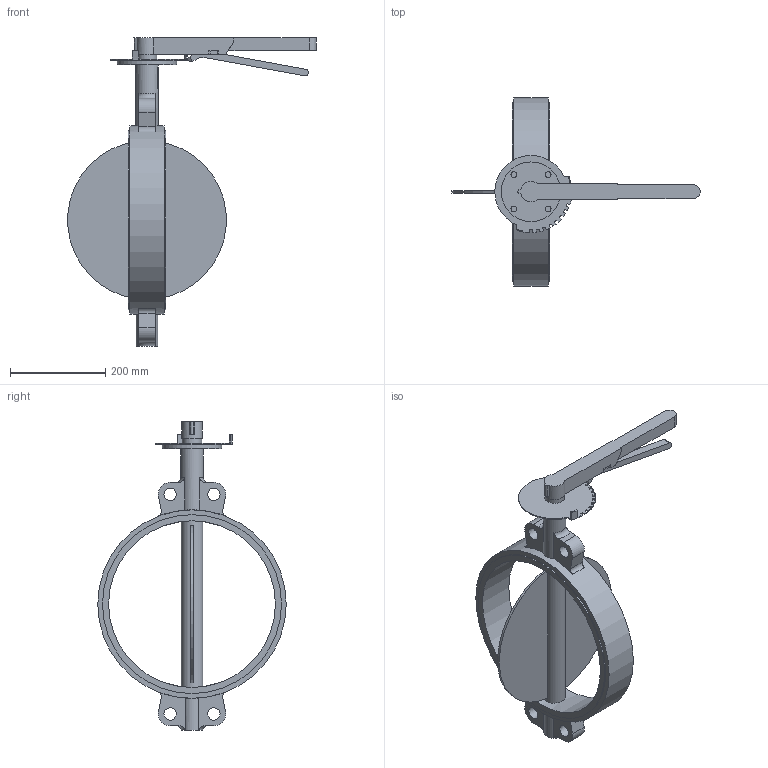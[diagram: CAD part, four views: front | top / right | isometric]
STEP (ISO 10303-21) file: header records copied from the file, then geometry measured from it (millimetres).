
FILE_DESCRIPTION(('STEP AP203'), '1');
FILE_NAME('Çàòâîð 017W.Y_DN350_PN16_ðóêîÿòü', '', ('UNSPECIFIED'), ('UNSPECIFIED'), 'ASCON STEP Converter 1.6', 'ASCON Math Kernel', '');
FILE_SCHEMA(('CONFIG_CONTROL_DESIGN'));
Length unit declared in the file: millimetre
Bounding box: 521.07 x 395.6 x 648 mm (x, y, z)
Volume: 4192160.3 mm3; surface area: 593783.9 mm2
Topology: 1 solids, 1 shells, 197 faces, 528 edges, 348 vertices
Faces by surface type: plane 110, cylinder 83, torus 4
Full cylindrical faces by diameter (mm): 12 x4, 26 x4, 41 x1, 45 x1, 47 x1, 125 x1, 350 x1, 375.6 x2, 395.6 x1
Entity records: 8924 total; most frequent: CARTESIAN_POINT 2269, DIRECTION 1074, ORIENTED_EDGE 1024, EDGE_CURVE 512, AXIS2_PLACEMENT_3D 384, VERTEX_POINT 348, LINE 306, VECTOR 306
